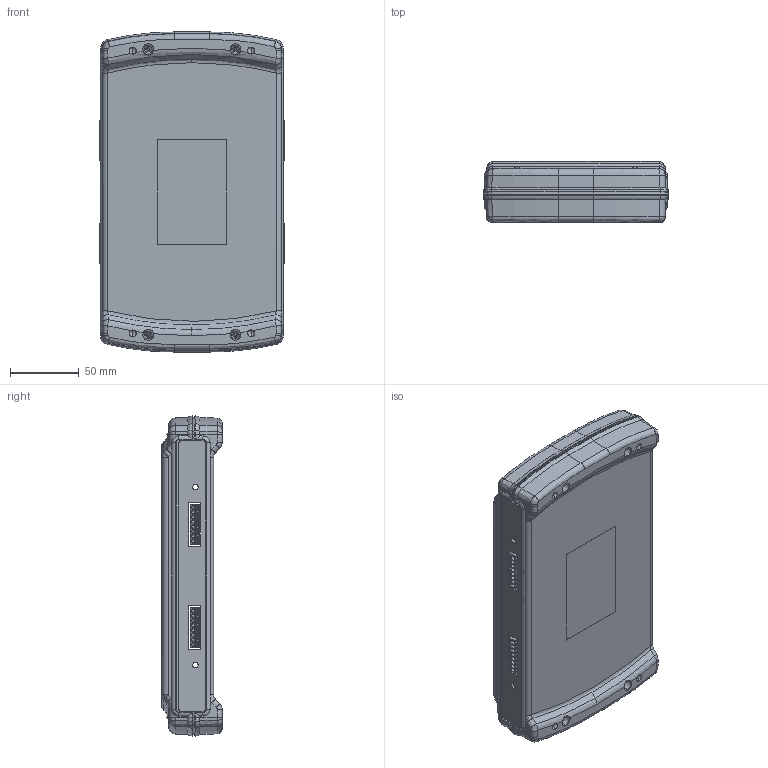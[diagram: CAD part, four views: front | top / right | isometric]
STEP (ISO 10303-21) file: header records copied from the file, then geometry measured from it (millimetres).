
FILE_DESCRIPTION (( 'STEP AP203' ), '1' );
FILE_NAME ('di400-external-view-only.STEP', '2017-03-27T11:31:45', ( '' ), ( '' ), 'SwSTEP 2.0', 'SolidWorks 2016', '' );
FILE_SCHEMA (( 'CONFIG_CONTROL_DESIGN' ));
Length unit declared in the file: millimetre
Products named in the file (6): 8-pin-terminal-block-female; 610-02406-rear-panel; Enclosure,Top,ZN-4XC_ZN-40C-R; Enclosure,Bottom,ZN-40BMB_ZN-40BMB; 610-02405-front-panel; di400-external-view-only
Assembly tree (8 placements, depth 2):
  di400-external-view-only
    Enclosure,Bottom,ZN-40BMB_ZN-40BMB
    610-02405-front-panel
    Enclosure,Top,ZN-4XC_ZN-40C-R
    8-pin-terminal-block-female  x4
    610-02406-rear-panel
Bounding box: 135.14 x 44.12 x 233.17 mm (x, y, z)
Volume: 200962.2 mm3; surface area: 188162.4 mm2
Topology: 8 solids, 8 shells, 2305 faces, 5747 edges, 3596 vertices
Faces by surface type: plane 1555, bspline 314, cylinder 242, cone 194
Entity records: 62436 total; most frequent: CARTESIAN_POINT 32705, ORIENTED_EDGE 6526, DIRECTION 5274, EDGE_CURVE 3263, VERTEX_POINT 2036, VECTOR 1826, LINE 1826, AXIS2_PLACEMENT_3D 1724
